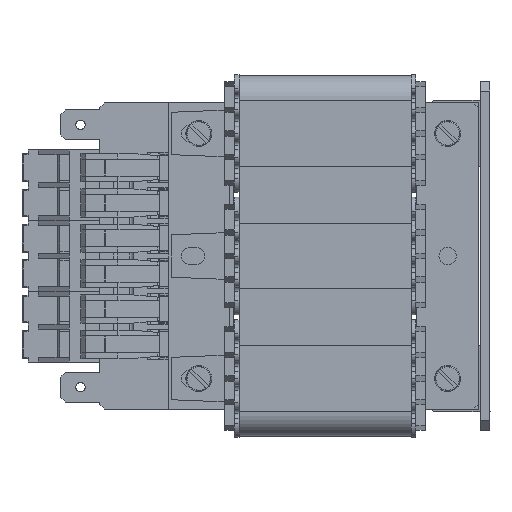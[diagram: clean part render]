
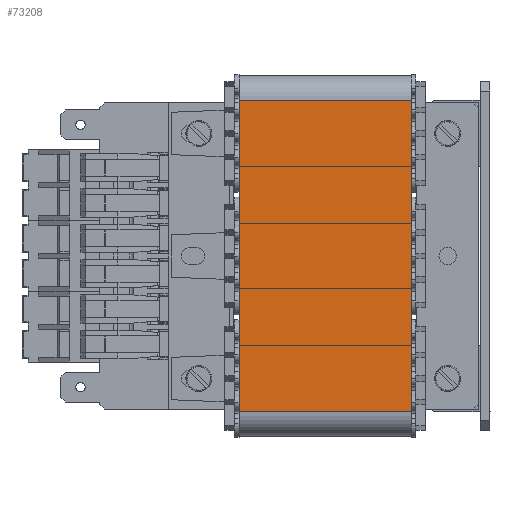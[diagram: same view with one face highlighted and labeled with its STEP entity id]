
A CAD part, left-side view. The second image highlights one B-rep face of the part: STEP entity #73208.
In plain terms, the highlighted planar face has unit normal (-1, 0, 0) as drawn and (0, 0, -1) by its records, which use the part's own axes.
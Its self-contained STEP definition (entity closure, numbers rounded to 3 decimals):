
#747 = CARTESIAN_POINT ( 'NONE',  ( -33., 36.5, -17.7 ) ) ;
#2859 = VECTOR ( 'NONE', #53311, 1000. ) ;
#4925 = LINE ( 'NONE', #747, #2859 ) ;
#10284 = DIRECTION ( 'NONE',  ( 0., -1., 0. ) ) ;
#15207 = CARTESIAN_POINT ( 'NONE',  ( -33., 36.5, -17.7 ) ) ;
#16250 = VECTOR ( 'NONE', #47870, 1000. ) ;
#18428 = VERTEX_POINT ( 'NONE', #42430 ) ;
#30242 = VERTEX_POINT ( 'NONE', #34103 ) ;
#30294 = DIRECTION ( 'NONE',  ( 0., 0., 1. ) ) ;
#33670 = VECTOR ( 'NONE', #10284, 1000. ) ;
#33729 = LINE ( 'NONE', #15207, #16250 ) ;
#34103 = CARTESIAN_POINT ( 'NONE',  ( 33., 0., -17.7 ) ) ;
#35370 = CARTESIAN_POINT ( 'NONE',  ( -33., 36.5, -17.7 ) ) ;
#38136 = AXIS2_PLACEMENT_3D ( 'NONE', #62916, #30294, #76120 ) ;
#42430 = CARTESIAN_POINT ( 'NONE',  ( 33., 36.5, -17.7 ) ) ;
#44125 = ORIENTED_EDGE ( 'NONE', *, *, #51450, .T. ) ;
#44832 = EDGE_CURVE ( 'NONE', #47517, #78769, #4925, .T. ) ;
#46399 = VECTOR ( 'NONE', #64402, 1000. ) ;
#47517 = VERTEX_POINT ( 'NONE', #35370 ) ;
#47870 = DIRECTION ( 'NONE',  ( -1., 0., 0. ) ) ;
#49628 = CARTESIAN_POINT ( 'NONE',  ( 33., 36.5, -17.7 ) ) ;
#50543 = LINE ( 'NONE', #77287, #46399 ) ;
#51450 = EDGE_CURVE ( 'NONE', #18428, #30242, #68532, .T. ) ;
#53311 = DIRECTION ( 'NONE',  ( 0., -1., 0. ) ) ;
#54069 = ORIENTED_EDGE ( 'NONE', *, *, #79808, .F. ) ;
#55550 = EDGE_LOOP ( 'NONE', ( #66376, #57356, #54069, #44125 ) ) ;
#57356 = ORIENTED_EDGE ( 'NONE', *, *, #44832, .F. ) ;
#62638 = PLANE ( 'NONE',  #38136 ) ;
#62916 = CARTESIAN_POINT ( 'NONE',  ( -33., 36.5, -17.7 ) ) ;
#64402 = DIRECTION ( 'NONE',  ( -1., 0., 0. ) ) ;
#66376 = ORIENTED_EDGE ( 'NONE', *, *, #77226, .T. ) ;
#68532 = LINE ( 'NONE', #49628, #33670 ) ;
#73208 = ADVANCED_FACE ( 'NONE', ( #75672 ), #62638, .F. ) ;
#75672 = FACE_OUTER_BOUND ( 'NONE', #55550, .T. ) ;
#76120 = DIRECTION ( 'NONE',  ( 1., 0., 0. ) ) ;
#77226 = EDGE_CURVE ( 'NONE', #30242, #78769, #50543, .T. ) ;
#77287 = CARTESIAN_POINT ( 'NONE',  ( -33., 0., -17.7 ) ) ;
#78769 = VERTEX_POINT ( 'NONE', #81050 ) ;
#79808 = EDGE_CURVE ( 'NONE', #18428, #47517, #33729, .T. ) ;
#81050 = CARTESIAN_POINT ( 'NONE',  ( -33., 0., -17.7 ) ) ;
